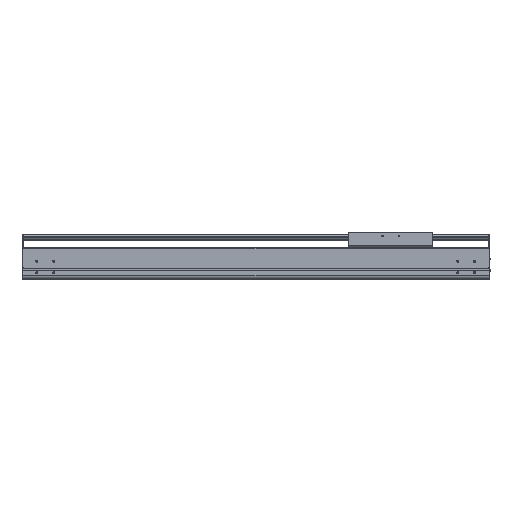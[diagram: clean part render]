
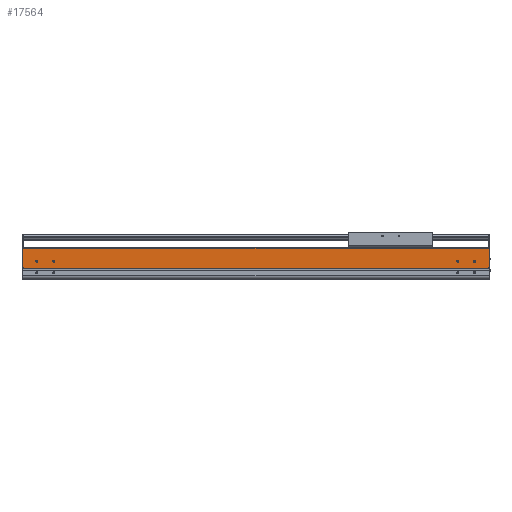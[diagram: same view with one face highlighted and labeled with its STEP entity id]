
A CAD part, top view. The second image highlights one B-rep face of the part: STEP entity #17564.
In plain terms, the highlighted planar face has unit normal (0, 0, 1).
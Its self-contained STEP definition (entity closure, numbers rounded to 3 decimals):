
#2900=DIRECTION('',(1.,0.,0.));
#2901=VECTOR('',#2900,2.);
#2902=CARTESIAN_POINT('',(0.,34.65,107.));
#2903=LINE('',#2902,#2901);
#2908=CARTESIAN_POINT('',(-42.,54.,107.));
#2909=DIRECTION('',(0.,0.,-1.));
#2910=DIRECTION('',(1.,0.,0.));
#2911=AXIS2_PLACEMENT_3D('',#2908,#2909,#2910);
#2913=CARTESIAN_POINT('',(-42.,54.,107.));
#2914=DIRECTION('',(0.,0.,-1.));
#2915=DIRECTION('',(-1.,0.,0.));
#2916=AXIS2_PLACEMENT_3D('',#2913,#2914,#2915);
#2918=CARTESIAN_POINT('',(-92.,54.,107.));
#2919=DIRECTION('',(0.,0.,-1.));
#2920=DIRECTION('',(1.,0.,0.));
#2921=AXIS2_PLACEMENT_3D('',#2918,#2919,#2920);
#2923=CARTESIAN_POINT('',(-92.,54.,107.));
#2924=DIRECTION('',(0.,0.,-1.));
#2925=DIRECTION('',(-1.,0.,0.));
#2926=AXIS2_PLACEMENT_3D('',#2923,#2924,#2925);
#2928=CARTESIAN_POINT('',(-1344.,54.,107.));
#2929=DIRECTION('',(0.,0.,-1.));
#2930=DIRECTION('',(1.,0.,0.));
#2931=AXIS2_PLACEMENT_3D('',#2928,#2929,#2930);
#2933=CARTESIAN_POINT('',(-1344.,54.,107.));
#2934=DIRECTION('',(0.,0.,-1.));
#2935=DIRECTION('',(-1.,0.,0.));
#2936=AXIS2_PLACEMENT_3D('',#2933,#2934,#2935);
#2938=CARTESIAN_POINT('',(-1294.,54.,107.));
#2939=DIRECTION('',(0.,0.,-1.));
#2940=DIRECTION('',(1.,0.,0.));
#2941=AXIS2_PLACEMENT_3D('',#2938,#2939,#2940);
#2943=CARTESIAN_POINT('',(-1294.,54.,107.));
#2944=DIRECTION('',(0.,0.,-1.));
#2945=DIRECTION('',(-1.,0.,0.));
#2946=AXIS2_PLACEMENT_3D('',#2943,#2944,#2945);
#2948=DIRECTION('',(0.,-1.,0.));
#2949=VECTOR('',#2948,2.55);
#2950=CARTESIAN_POINT('',(-1384.,34.65,107.));
#2951=LINE('',#2950,#2949);
#2952=DIRECTION('',(0.,-1.,0.));
#2953=VECTOR('',#2952,58.85);
#2954=CARTESIAN_POINT('',(-1386.,93.5,107.));
#2955=LINE('',#2954,#2953);
#2956=DIRECTION('',(0.,1.,0.));
#2957=VECTOR('',#2956,58.85);
#2958=CARTESIAN_POINT('',(2.,34.65,107.));
#2959=LINE('',#2958,#2957);
#2960=DIRECTION('',(0.,1.,0.));
#2961=VECTOR('',#2960,2.55);
#2962=CARTESIAN_POINT('',(0.,32.1,107.));
#2963=LINE('',#2962,#2961);
#3072=DIRECTION('',(1.,0.,0.));
#3073=VECTOR('',#3072,2.);
#3074=CARTESIAN_POINT('',(-1386.,34.65,107.));
#3075=LINE('',#3074,#3073);
#3084=DIRECTION('',(-1.,0.,0.));
#3085=VECTOR('',#3084,1388.);
#3086=CARTESIAN_POINT('',(2.,93.5,107.));
#3087=LINE('',#3086,#3085);
#10306=DIRECTION('',(1.,0.,0.));
#10307=VECTOR('',#10306,1384.);
#10308=CARTESIAN_POINT('',(-1384.,32.1,107.));
#10309=LINE('',#10308,#10307);
#11621=CARTESIAN_POINT('',(-1386.,34.65,107.));
#11622=VERTEX_POINT('',#11621);
#11623=CARTESIAN_POINT('',(-1386.,93.5,107.));
#11624=VERTEX_POINT('',#11623);
#11845=CARTESIAN_POINT('',(-1384.,32.1,107.));
#11846=VERTEX_POINT('',#11845);
#11917=CARTESIAN_POINT('',(0.,32.1,107.));
#11918=VERTEX_POINT('',#11917);
#12321=CARTESIAN_POINT('',(-39.5,54.,107.));
#12322=CARTESIAN_POINT('',(-44.5,54.,107.));
#12323=VERTEX_POINT('',#12321);
#12324=VERTEX_POINT('',#12322);
#12325=CARTESIAN_POINT('',(-89.5,54.,107.));
#12326=CARTESIAN_POINT('',(-94.5,54.,107.));
#12327=VERTEX_POINT('',#12325);
#12328=VERTEX_POINT('',#12326);
#12329=CARTESIAN_POINT('',(-1341.5,54.,107.));
#12330=CARTESIAN_POINT('',(-1346.5,54.,107.));
#12331=VERTEX_POINT('',#12329);
#12332=VERTEX_POINT('',#12330);
#12333=CARTESIAN_POINT('',(-1291.5,54.,107.));
#12334=CARTESIAN_POINT('',(-1296.5,54.,107.));
#12335=VERTEX_POINT('',#12333);
#12336=VERTEX_POINT('',#12334);
#13426=CARTESIAN_POINT('',(2.,34.65,107.));
#13427=VERTEX_POINT('',#13426);
#13428=CARTESIAN_POINT('',(2.,93.5,107.));
#13429=VERTEX_POINT('',#13428);
#13650=CARTESIAN_POINT('',(0.,34.65,107.));
#13651=VERTEX_POINT('',#13650);
#13962=CARTESIAN_POINT('',(-1384.,34.65,107.));
#13963=VERTEX_POINT('',#13962);
#17522=CARTESIAN_POINT('',(-692.,62.8,107.));
#17523=DIRECTION('',(0.,0.,1.));
#17524=DIRECTION('',(0.,-1.,0.));
#17525=AXIS2_PLACEMENT_3D('',#17522,#17523,#17524);
#17526=PLANE('',#17525);
#17527=ORIENTED_EDGE('',*,*,#14750,.F.);
#17529=ORIENTED_EDGE('',*,*,#17528,.F.);
#17530=ORIENTED_EDGE('',*,*,#15833,.F.);
#17532=ORIENTED_EDGE('',*,*,#17531,.F.);
#17533=ORIENTED_EDGE('',*,*,#17320,.F.);
#17534=ORIENTED_EDGE('',*,*,#17515,.F.);
#17535=ORIENTED_EDGE('',*,*,#15357,.F.);
#17537=ORIENTED_EDGE('',*,*,#17536,.F.);
#17538=EDGE_LOOP('',(#17527,#17529,#17530,#17532,#17533,#17534,#17535,#17537));
#17539=FACE_OUTER_BOUND('',#17538,.F.);
#17541=ORIENTED_EDGE('',*,*,#17540,.F.);
#17543=ORIENTED_EDGE('',*,*,#17542,.F.);
#17544=EDGE_LOOP('',(#17541,#17543));
#17545=FACE_BOUND('',#17544,.F.);
#17547=ORIENTED_EDGE('',*,*,#17546,.F.);
#17549=ORIENTED_EDGE('',*,*,#17548,.F.);
#17550=EDGE_LOOP('',(#17547,#17549));
#17551=FACE_BOUND('',#17550,.F.);
#17553=ORIENTED_EDGE('',*,*,#17552,.F.);
#17555=ORIENTED_EDGE('',*,*,#17554,.F.);
#17556=EDGE_LOOP('',(#17553,#17555));
#17557=FACE_BOUND('',#17556,.F.);
#17559=ORIENTED_EDGE('',*,*,#17558,.F.);
#17561=ORIENTED_EDGE('',*,*,#17560,.F.);
#17562=EDGE_LOOP('',(#17559,#17561));
#17563=FACE_BOUND('',#17562,.F.);
#17564=ADVANCED_FACE('',(#17539,#17545,#17551,#17557,#17563),#17526,.T.);
#2912=CIRCLE('',#2911,2.5);
#2917=CIRCLE('',#2916,2.5);
#2922=CIRCLE('',#2921,2.5);
#2927=CIRCLE('',#2926,2.5);
#2932=CIRCLE('',#2931,2.5);
#2937=CIRCLE('',#2936,2.5);
#2942=CIRCLE('',#2941,2.5);
#2947=CIRCLE('',#2946,2.5);
#14750=EDGE_CURVE('',#13963,#11846,#2951,.T.);
#15357=EDGE_CURVE('',#11918,#13651,#2963,.T.);
#15833=EDGE_CURVE('',#11624,#11622,#2955,.T.);
#17320=EDGE_CURVE('',#13427,#13429,#2959,.T.);
#17515=EDGE_CURVE('',#13651,#13427,#2903,.T.);
#17528=EDGE_CURVE('',#11622,#13963,#3075,.T.);
#17531=EDGE_CURVE('',#13429,#11624,#3087,.T.);
#17536=EDGE_CURVE('',#11846,#11918,#10309,.T.);
#17540=EDGE_CURVE('',#12327,#12328,#2922,.T.);
#17542=EDGE_CURVE('',#12328,#12327,#2927,.T.);
#17546=EDGE_CURVE('',#12331,#12332,#2932,.T.);
#17548=EDGE_CURVE('',#12332,#12331,#2937,.T.);
#17552=EDGE_CURVE('',#12335,#12336,#2942,.T.);
#17554=EDGE_CURVE('',#12336,#12335,#2947,.T.);
#17558=EDGE_CURVE('',#12323,#12324,#2912,.T.);
#17560=EDGE_CURVE('',#12324,#12323,#2917,.T.);
